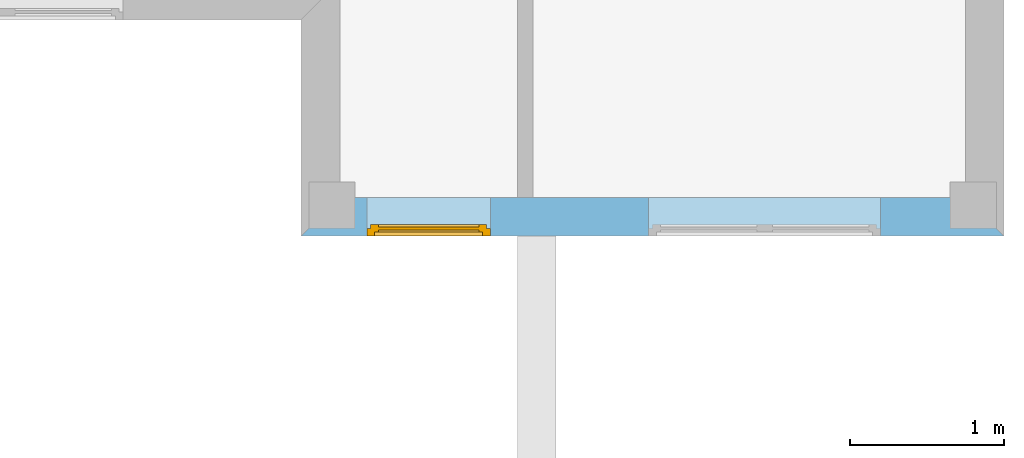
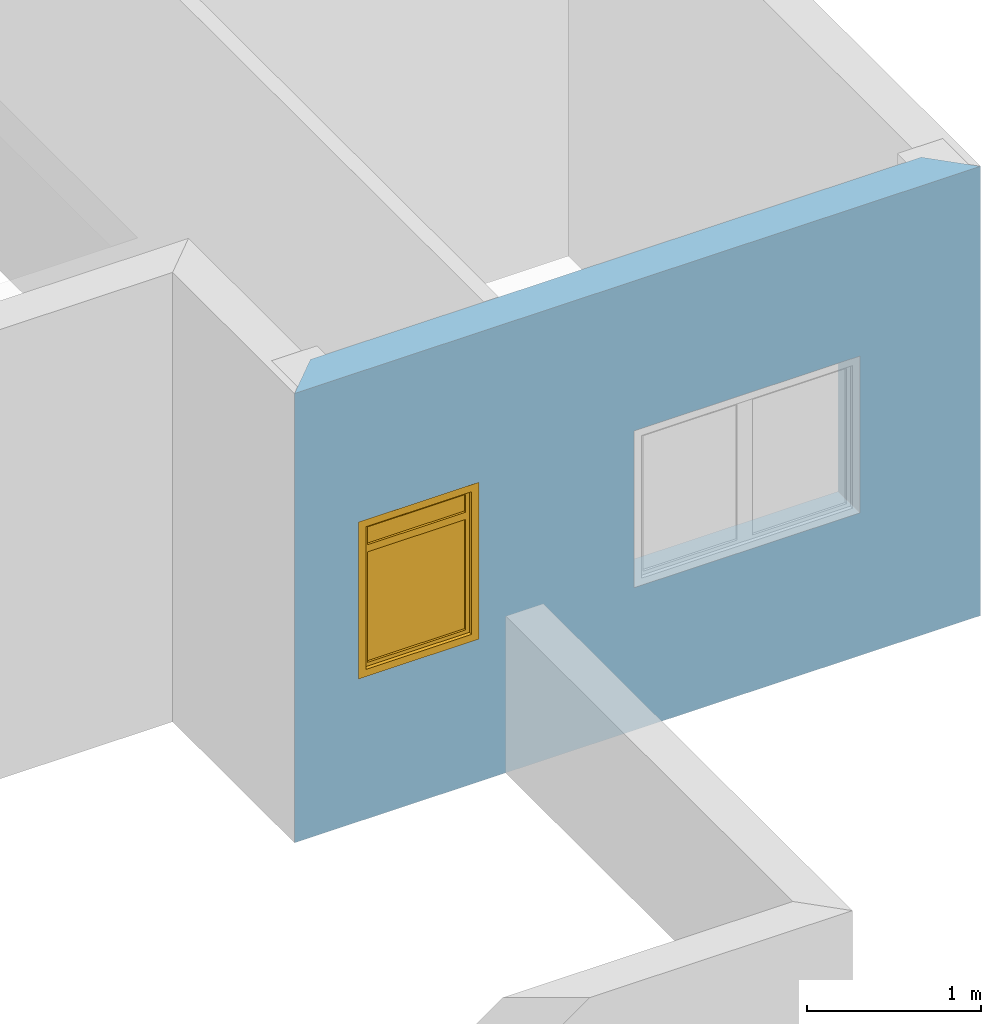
# One storey, part 2 of 2: 1 window, 2 openings, plus 1 element that does not belong to this part.
"""IFC2X3 building model written with IfcOpenShell, lengths in millimetres."""

from ifc_helpers import new_model, entity, si_unit, converted_unit, direction, frame, frame_2d, origin_with_axes, place, context, project, spatial, polyline, rectangle, outline, extrude, faceted_brep, material, layer, layer_set, layer_usage, type_object, element, fill, save


model = new_model("IFC2X3")

# Units and contexts
context_of_model = context(None, 3, precision=1e-05, world=origin_with_axes(), true_north=direction((6.123234e-17, 1.0)))
plan_context = context("Plan", 3, precision=1e-05, world=origin_with_axes(), true_north=direction((6.123234e-17, 1.0)))
model_context = context("Model", 3, precision=1e-05, world=origin_with_axes(), true_north=direction((6.123234e-17, 1.0)))
ifc_project = project(units=[si_unit("LENGTHUNIT", "METRE", prefix="MILLI"), si_unit("AREAUNIT", "SQUARE_METRE"), si_unit("VOLUMEUNIT", "CUBIC_METRE"), converted_unit("PLANEANGLEUNIT", "DEGREE", entity("IfcPlaneAngleMeasure", 0.017453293), si_unit("PLANEANGLEUNIT", "RADIAN"), dimensions=[0, 0, 0, 0, 0, 0, 0]), si_unit("SOLIDANGLEUNIT", "STERADIAN"), si_unit("MASSUNIT", "GRAM"), si_unit("TIMEUNIT", "SECOND"), si_unit("THERMODYNAMICTEMPERATUREUNIT", "DEGREE_CELSIUS"), si_unit("LUMINOUSINTENSITYUNIT", "LUMEN")], contexts=[context_of_model, plan_context, model_context])

# Site, building, storey
site_placement = place(None, origin_with_axes())
site = spatial("IfcSite", under=ifc_project, at=site_placement, Name="Por defecto Sitio", CompositionType="ELEMENT")
building_placement = place(site_placement, origin_with_axes())
building = spatial("IfcBuilding", under=site, at=building_placement, Name="Por defecto Edificio", CompositionType="ELEMENT")
storey_placement = place(building_placement, frame((0.0, 0.0, 3150.0), z_axis=(0.0, 0.0, 1.0), x_axis=(1.0, 0.0, 0.0)))
storey = spatial("IfcBuildingStorey", under=building, at=storey_placement, Name="Primera", CompositionType="ELEMENT", Elevation=3150.0)

# Wall, openings, window
ifc_material = material(Name="Bloque mampostería")
ifc_layer = layer(ifc_material, 250.0, ventilated="UNKNOWN")
ifc_layer_set = layer_set([ifc_layer], Name="Bloque mampostería 250")
ifc_layer_usage = layer_usage(ifc_layer_set, "AXIS2", "NEGATIVE", 0.0)
wall_type = type_object("IfcWallType", Name="Bloque mampostería 250", PredefinedType="NOTDEFINED", material=ifc_layer_set)
wall_placement = place(storey_placement, frame((7800.0, 3350.0, 0.0), z_axis=(0.0, 0.0, 1.0), x_axis=(-1.0, 0.0, 0.0)))
wall = element("IfcWallStandardCase", 1, at=wall_placement, inside=storey, type_object=wall_type, material=ifc_layer_usage, Name="Muro-009", context=model_context, shape_type="SweptSolid", body=[
    extrude(outline(polyline([(250.0, -250.0), (4300.0, -250.0), (4550.0, 0.0), (0.0, 0.0), (250.0, -250.0)])), origin_with_axes(), (0.0, 0.0, 1.0), 3150.0),
])
opening_1_placement = place(wall_placement, frame((1550.0, -250.0, 1000.0), z_axis=(0.0, 0.0, 1.0), x_axis=(1.0, 0.0, 0.0)))
element("IfcOpeningElement", 2, at=opening_1_placement, cuts=wall, ObjectType="Opening", context=model_context, shape_type="SweptSolid", body=[
    extrude(rectangle(XDim=1500.0, YDim=1100.0, at=frame_2d((0.0, 550.0), x_axis=(1.0, 0.0))), frame((0.0, 0.0, 0.0), z_axis=(0.0, 1.0, 0.0), x_axis=(-1.0, 0.0, 0.0)), (0.0, 0.0, 1.0), 250.0),
])
opening_2_placement = place(wall_placement, frame((3725.0, -250.0, 1000.0), z_axis=(0.0, 0.0, 1.0), x_axis=(1.0, 0.0, 0.0)))
opening_2 = element("IfcOpeningElement", 3, at=opening_2_placement, cuts=wall, ObjectType="Opening", context=model_context, shape_type="SweptSolid", body=[
    extrude(rectangle(XDim=800.0, YDim=1100.0, at=frame_2d((0.0, 550.0), x_axis=(1.0, 0.0))), frame((0.0, 0.0, 0.0), z_axis=(0.0, 1.0, 0.0), x_axis=(-1.0, 0.0, 0.0)), (0.0, 0.0, 1.0), 250.0),
])
window_style = type_object("IfcWindowStyle", Name="V1 Practicable DivH 13", ConstructionType="NOTDEFINED", OperationType="SINGLE_PANEL", ParameterTakesPrecedence=False, Sizeable=False)
window_placement = place(opening_2_placement, frame((400.0, 250.0, 0.0), z_axis=(0.0, 0.0, 1.0), x_axis=(-1.0, 0.0, 0.0)))
window = element("IfcWindow", 4, at=window_placement, inside=storey, type_object=window_style, Name="V07", OverallHeight=1100.0, OverallWidth=800.0, context=model_context, shape_type="Brep", body=[
    faceted_brep([(25.0, 50.0, 1050.0), (0.0, 50.0, 1050.0), (0.0, 4.4408921e-13, 1050.0), (50.0, 4.4408921e-13, 1050.0), (50.0, 25.0, 1050.0), (25.0, 25.0, 1050.0), (25.0, 50.0, 50.0), (0.0, 50.0, 50.0), (0.0, 4.4408921e-13, 50.0), (50.0, 4.4408921e-13, 50.0), (50.0, 25.0, 50.0), (25.0, 25.0, 50.0)], [[[0, 1, 2, 3, 4, 5]], [[6, 7, 1, 0]], [[1, 7, 8, 2]], [[3, 2, 8, 9]], [[4, 3, 9, 10]], [[10, 11, 5, 4]], [[5, 11, 6, 0]], [[11, 10, 9, 8, 7, 6]]]),
    faceted_brep([(750.0, 25.0, 1050.0), (750.0, 4.4408921e-13, 1050.0), (800.0, 4.4408921e-13, 1050.0), (800.0, 50.0, 1050.0), (775.0, 50.0, 1050.0), (775.0, 25.0, 1050.0), (750.0, 25.0, 50.0), (750.0, 4.4408921e-13, 50.0), (800.0, 4.4408921e-13, 50.0), (800.0, 50.0, 50.0), (775.0, 50.0, 50.0), (775.0, 25.0, 50.0)], [[[0, 1, 2, 3, 4, 5]], [[6, 7, 1, 0]], [[2, 1, 7, 8]], [[9, 3, 2, 8]], [[4, 3, 9, 10]], [[10, 11, 5, 4]], [[5, 11, 6, 0]], [[11, 10, 9, 8, 7, 6]]]),
    faceted_brep([(750.0, 25.0, 50.0), (750.0, 4.4408921e-13, 50.0), (800.0, 4.4408921e-13, 50.0), (800.0, 50.0, 50.0), (775.0, 50.0, 50.0), (775.0, 25.0, 50.0), (50.0, 25.0, 50.0), (50.0, 4.4408921e-13, 50.0), (800.0, 4.4408921e-13, 0.0), (0.0, 4.4408921e-13, 50.0), (0.0, 0.0, 0.0), (800.0, 50.0, 0.0), (25.0, 50.0, 25.0), (775.0, 50.0, 25.0), (0.0, 50.0, 0.0), (0.0, 50.0, 50.0), (25.0, 50.0, 50.0), (775.0, 25.0, 25.0), (25.0, 25.0, 25.0), (25.0, 25.0, 50.0)], [[[0, 1, 2, 3, 4, 5]], [[6, 7, 1, 0]], [[8, 2, 1, 7, 9, 10]], [[11, 3, 2, 8]], [[12, 13, 4, 3, 11, 14, 15, 16]], [[13, 17, 5, 4]], [[5, 17, 18, 19, 6, 0]], [[19, 16, 15, 9, 7, 6]], [[15, 14, 10, 9]], [[14, 11, 8, 10]], [[12, 18, 17, 13]], [[19, 18, 12, 16]]]),
    faceted_brep([(25.0, 50.0, 1050.0), (0.0, 50.0, 1050.0), (0.0, 50.0, 1100.0), (800.0, 50.0, 1100.0), (800.0, 50.0, 1050.0), (775.0, 50.0, 1050.0), (775.0, 50.0, 1075.0), (25.0, 50.0, 1075.0), (25.0, 25.0, 1050.0), (50.0, 25.0, 1050.0), (50.0, 4.4408921e-13, 1050.0), (0.0, 4.4408921e-13, 1050.0), (0.0, 4.4408921e-13, 1100.0), (800.0, 4.4408921e-13, 1100.0), (800.0, 4.4408921e-13, 1050.0), (775.0, 25.0, 1050.0), (750.0, 4.4408921e-13, 1050.0), (750.0, 25.0, 1050.0), (775.0, 25.0, 1075.0), (25.0, 25.0, 1075.0)], [[[0, 1, 2, 3, 4, 5, 6, 7]], [[8, 9, 10, 11, 1, 0]], [[2, 1, 11, 12]], [[3, 2, 12, 13]], [[4, 3, 13, 14]], [[15, 5, 4, 14, 16, 17]], [[5, 15, 18, 6]], [[6, 18, 19, 7]], [[7, 19, 8, 0]], [[17, 9, 8, 19, 18, 15]], [[17, 16, 10, 9]], [[10, 16, 14, 13, 12, 11]]]),
    faceted_brep([(75.0, 40.0, 75.0), (75.0, 60.0, 75.0), (725.0, 60.0, 75.0), (725.0, 40.0, 75.0), (75.0, 40.0, 850.0), (75.0, 60.0, 850.0), (725.0, 60.0, 850.0), (725.0, 40.0, 850.0)], [[[0, 1, 2, 3]], [[4, 5, 1, 0]], [[1, 5, 6, 2]], [[3, 2, 6, 7]], [[0, 3, 7, 4]], [[7, 6, 5, 4]]]),
    faceted_brep([(75.0, 40.0, 900.0), (75.0, 60.0, 900.0), (725.0, 60.0, 900.0), (725.0, 40.0, 900.0), (75.0, 40.0, 1025.0), (75.0, 60.0, 1025.0), (725.0, 60.0, 1025.0), (725.0, 40.0, 1025.0)], [[[0, 1, 2, 3]], [[4, 5, 1, 0]], [[1, 5, 6, 2]], [[3, 2, 6, 7]], [[0, 3, 7, 4]], [[7, 6, 5, 4]]]),
    faceted_brep([(75.0, 25.0, 75.0), (75.0, 75.0, 75.0), (75.0, 75.0, 850.0), (75.0, 25.0, 850.0), (25.0, 25.0, 75.0), (25.0, 75.0, 75.0), (25.0, 75.0, 1025.0), (75.0, 75.0, 1025.0), (75.0, 75.0, 900.0), (75.0, 25.0, 900.0), (75.0, 25.0, 1025.0), (25.0, 25.0, 1025.0)], [[[0, 1, 2, 3]], [[4, 5, 1, 0]], [[1, 5, 6, 7, 8, 2]], [[3, 2, 8, 9]], [[0, 3, 9, 10, 11, 4]], [[11, 6, 5, 4]], [[10, 7, 6, 11]], [[9, 8, 7, 10]]]),
    faceted_brep([(775.0, 25.0, 75.0), (775.0, 75.0, 75.0), (775.0, 75.0, 1025.0), (775.0, 25.0, 1025.0), (725.0, 25.0, 75.0), (725.0, 75.0, 75.0), (725.0, 75.0, 850.0), (725.0, 75.0, 900.0), (725.0, 75.0, 1025.0), (725.0, 25.0, 1025.0), (725.0, 25.0, 900.0), (725.0, 25.0, 850.0)], [[[0, 1, 2, 3]], [[4, 5, 1, 0]], [[1, 5, 6, 7, 8, 2]], [[3, 2, 8, 9]], [[0, 3, 9, 10, 11, 4]], [[11, 6, 5, 4]], [[10, 7, 6, 11]], [[9, 8, 7, 10]]]),
    faceted_brep([(75.0, 25.0, 900.0), (75.0, 75.0, 900.0), (75.0, 75.0, 850.0), (75.0, 25.0, 850.0), (725.0, 25.0, 900.0), (725.0, 75.0, 900.0), (725.0, 75.0, 850.0), (725.0, 25.0, 850.0)], [[[0, 1, 2, 3]], [[4, 5, 1, 0]], [[1, 5, 6, 2]], [[3, 2, 6, 7]], [[0, 3, 7, 4]], [[7, 6, 5, 4]]]),
    faceted_brep([(25.0, 25.0, 25.0), (25.0, 75.0, 25.0), (775.0, 75.0, 25.0), (775.0, 25.0, 25.0), (25.0, 25.0, 75.0), (25.0, 75.0, 75.0), (75.0, 75.0, 75.0), (725.0, 75.0, 75.0), (775.0, 75.0, 75.0), (775.0, 25.0, 75.0), (725.0, 25.0, 75.0), (75.0, 25.0, 75.0)], [[[0, 1, 2, 3]], [[4, 5, 1, 0]], [[1, 5, 6, 7, 8, 2]], [[3, 2, 8, 9]], [[0, 3, 9, 10, 11, 4]], [[11, 6, 5, 4]], [[10, 7, 6, 11]], [[9, 8, 7, 10]]]),
    faceted_brep([(25.0, 25.0, 1025.0), (25.0, 75.0, 1025.0), (75.0, 75.0, 1025.0), (75.0, 25.0, 1025.0), (25.0, 25.0, 1075.0), (25.0, 75.0, 1075.0), (775.0, 75.0, 1075.0), (775.0, 75.0, 1025.0), (725.0, 75.0, 1025.0), (725.0, 25.0, 1025.0), (775.0, 25.0, 1025.0), (775.0, 25.0, 1075.0)], [[[0, 1, 2, 3]], [[4, 5, 1, 0]], [[1, 5, 6, 7, 8, 2]], [[3, 2, 8, 9]], [[0, 3, 9, 10, 11, 4]], [[11, 6, 5, 4]], [[10, 7, 6, 11]], [[9, 8, 7, 10]]]),
])
fill(opening_2, window)

save(model, "model.ifc")
